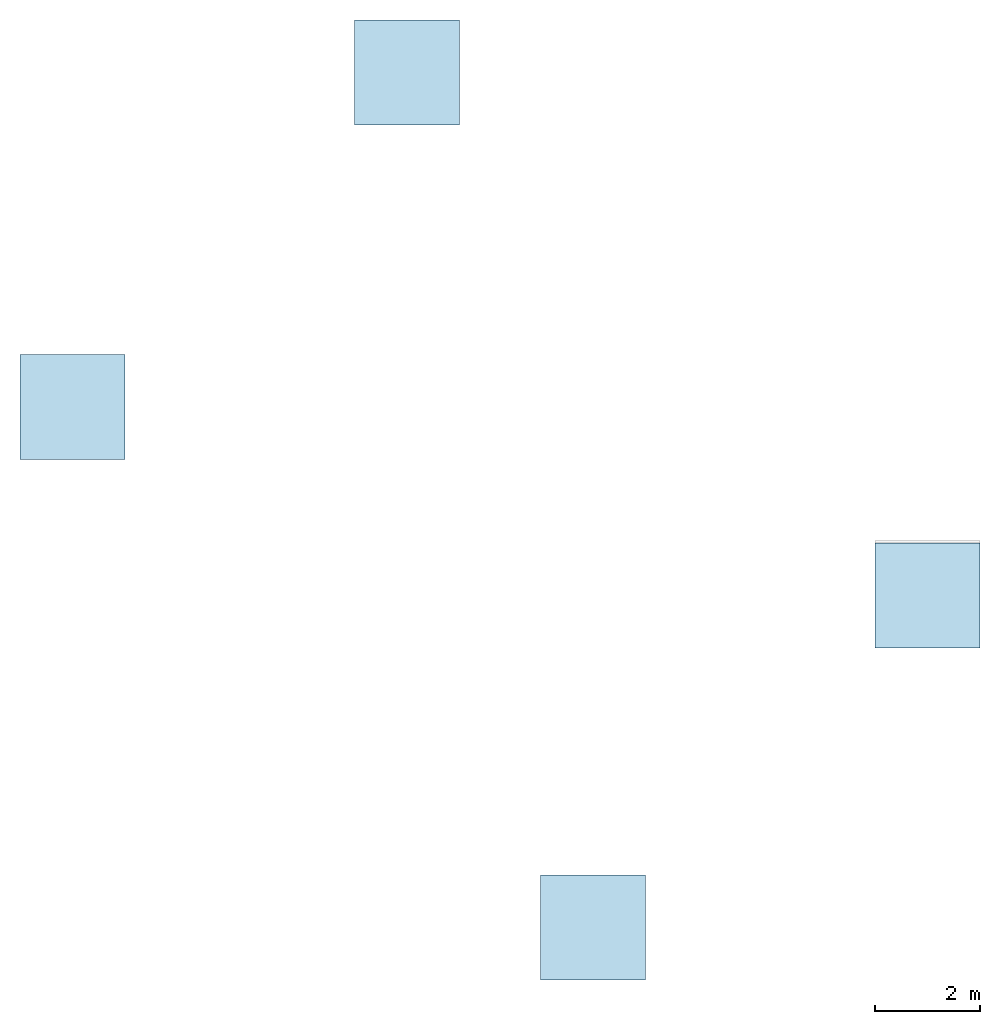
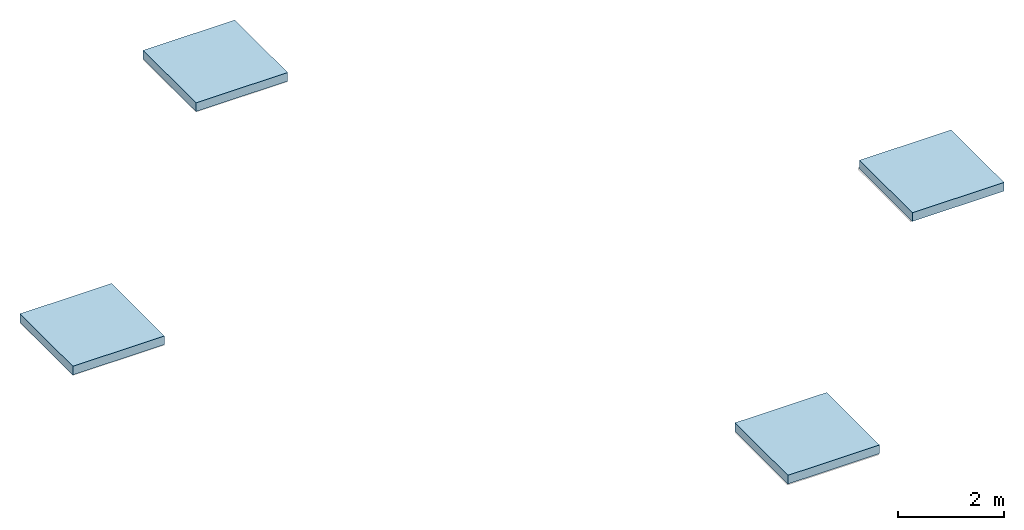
# One storey, part 1 of 2: 4 slabs.
"""IFC2X3 building model written with IfcOpenShell, lengths in millimetres."""

from ifc_helpers import new_model, entity, si_unit, converted_unit, derived_unit, direction, frame, frame_2d, origin, origin_2d_with_axis, place, context, subcontext, project, spatial, rectangle, extrude, material, layer, layer_set, layer_usage, element, save


model = new_model("IFC2X3")

# Units and contexts
model_context = context("Model", 3, precision=0.01, world=origin(), true_north=direction((6.12303176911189e-17, 1.0)))
context_of_model = context(None, 3, precision=0.01, world=origin(), true_north=direction((6.12303176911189e-17, 1.0)))
body_context = subcontext(model_context, "Body", "Model", "MODEL_VIEW")
ifc_project = project(units=[si_unit("LENGTHUNIT", "METRE", prefix="MILLI"), si_unit("AREAUNIT", "SQUARE_METRE"), si_unit("VOLUMEUNIT", "CUBIC_METRE"), converted_unit("PLANEANGLEUNIT", "DEGREE", entity("IfcRatioMeasure", 0.0174532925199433), si_unit("PLANEANGLEUNIT", "RADIAN"), dimensions=[0, 0, 0, 0, 0, 0, 0]), si_unit("MASSUNIT", "GRAM", prefix="KILO"), si_unit("TIMEUNIT", "SECOND"), si_unit("FREQUENCYUNIT", "HERTZ"), si_unit("THERMODYNAMICTEMPERATUREUNIT", "DEGREE_CELSIUS"), derived_unit("THERMALTRANSMITTANCEUNIT", [(si_unit("MASSUNIT", "GRAM", prefix="KILO"), 1), (si_unit("THERMODYNAMICTEMPERATUREUNIT", "KELVIN"), -1), (si_unit("TIMEUNIT", "SECOND"), -3)]), derived_unit("VOLUMETRICFLOWRATEUNIT", [(si_unit("LENGTHUNIT", "METRE"), 3), (si_unit("TIMEUNIT", "SECOND"), -1)]), si_unit("ELECTRICCURRENTUNIT", "AMPERE"), si_unit("ELECTRICVOLTAGEUNIT", "VOLT"), si_unit("POWERUNIT", "WATT"), si_unit("FORCEUNIT", "NEWTON", prefix="KILO"), si_unit("ILLUMINANCEUNIT", "LUX"), si_unit("LUMINOUSFLUXUNIT", "LUMEN"), si_unit("LUMINOUSINTENSITYUNIT", "CANDELA"), derived_unit("USERDEFINED", [(si_unit("MASSUNIT", "GRAM", prefix="KILO"), -1), (si_unit("LENGTHUNIT", "METRE"), -2), (si_unit("TIMEUNIT", "SECOND"), 3), (si_unit("LUMINOUSFLUXUNIT", "LUMEN"), 1)]), derived_unit("LINEARVELOCITYUNIT", [(si_unit("LENGTHUNIT", "METRE"), 1), (si_unit("TIMEUNIT", "SECOND"), -1)]), si_unit("PRESSUREUNIT", "PASCAL"), derived_unit("USERDEFINED", [(si_unit("LENGTHUNIT", "METRE"), -2), (si_unit("MASSUNIT", "GRAM", prefix="KILO"), 1), (si_unit("TIMEUNIT", "SECOND"), -2)])], contexts=[model_context, context_of_model])

# Site, building, storey
site_placement = place(None, origin())
site = spatial("IfcSite", under=ifc_project, at=site_placement, Name="Default", CompositionType="ELEMENT")
building_placement = place(site_placement, origin())
building = spatial("IfcBuilding", under=site, at=building_placement, CompositionType="ELEMENT")
storey_placement = place(building_placement, frame((0.0, 0.0, 1800.0)))
storey = spatial("IfcBuildingStorey", under=building, at=storey_placement, Name="01 eerste verdieping", CompositionType="ELEMENT", Elevation=1800.0)

# Slabs
ifc_material = material(Name="Concrete, Precast Panels")
ifc_layer = layer(ifc_material, 200.0)
ifc_layer_set = layer_set([ifc_layer], Name="Floor:Generic 200mm")
ifc_layer_usage_1 = layer_usage(ifc_layer_set, "AXIS3", "POSITIVE", 0.0)
slab_1_placement = place(storey_placement, origin())
element("IfcSlab", 1, at=slab_1_placement, inside=storey, material=ifc_layer_usage_1, Name="Floor:Generic 200mm", ObjectType="Floor:Generic 200mm", PredefinedType="FLOOR", context=body_context, shape_type="SweptSolid", body=[
    extrude(rectangle(XDim=2000.0, YDim=2000.0, at=origin_2d_with_axis()), frame((1000.0, 3515.0, 200.0), z_axis=(0.0, 0.0, -1.0), x_axis=(0.0, 1.0, 0.0)), (0.0, 0.0, 1.0), 200.0),
])
ifc_layer_usage_2 = layer_usage(ifc_layer_set, "AXIS3", "POSITIVE", 0.0)
slab_2_placement = place(storey_placement, origin())
element("IfcSlab", 2, at=slab_2_placement, inside=storey, material=ifc_layer_usage_2, Name="Floor:Generic 200mm", ObjectType="Floor:Generic 200mm", PredefinedType="FLOOR", context=body_context, shape_type="SweptSolid", body=[
    extrude(rectangle(XDim=2000.0, YDim=2000.0, at=frame_2d((0.0, 5.11590769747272e-13), x_axis=(1.0, 0.0))), frame((7363.9610306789, 9878.96103067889, 195.0), z_axis=(0.0, 0.0, -1.0), x_axis=(0.0, 1.0, 0.0)), (0.0, 0.0, 1.0), 200.0),
])
ifc_layer_usage_3 = layer_usage(ifc_layer_set, "AXIS3", "POSITIVE", 0.0)
slab_3_placement = place(storey_placement, origin())
element("IfcSlab", 3, at=slab_3_placement, inside=storey, material=ifc_layer_usage_3, Name="Floor:Generic 200mm", ObjectType="Floor:Generic 200mm", PredefinedType="FLOOR", context=body_context, shape_type="SweptSolid", body=[
    extrude(rectangle(XDim=2000.0, YDim=2000.0, at=origin_2d_with_axis()), frame((17263.4559672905, -70.5339059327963, 225.0), z_axis=(0.0, 0.0, -1.0), x_axis=(0.0, 1.0, 0.0)), (0.0, 0.0, 1.0), 200.0),
])
ifc_layer_usage_4 = layer_usage(ifc_layer_set, "AXIS3", "POSITIVE", 0.0)
slab_4_placement = place(storey_placement, origin())
element("IfcSlab", 4, at=slab_4_placement, inside=storey, material=ifc_layer_usage_4, Name="Floor:Generic 200mm", ObjectType="Floor:Generic 200mm", PredefinedType="FLOOR", context=body_context, shape_type="SweptSolid", body=[
    extrude(rectangle(XDim=2000.0, YDim=2000.0, at=origin_2d_with_axis()), frame((10899.4949366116, -6384.49493661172, 220.0), z_axis=(0.0, 0.0, -1.0), x_axis=(0.0, 1.0, 0.0)), (0.0, 0.0, 1.0), 200.0),
])

save(model, "model.ifc")
